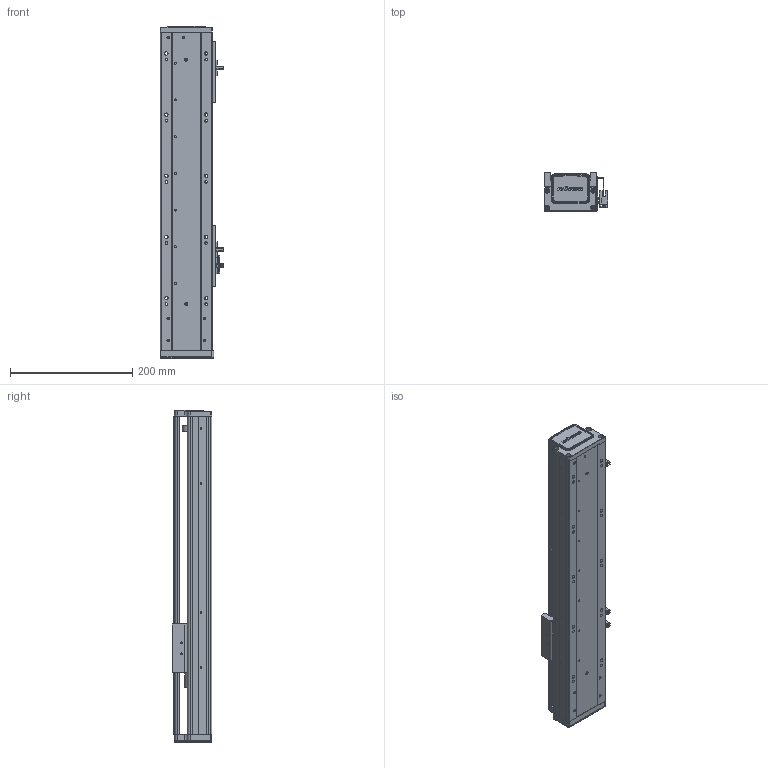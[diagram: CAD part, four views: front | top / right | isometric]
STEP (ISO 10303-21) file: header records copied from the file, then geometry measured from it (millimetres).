
FILE_DESCRIPTION (( 'STEP AP203' ), '1' );
FILE_NAME ('RY80-L1620-300-MK.SLDASM_300.step', '2021-02-20T02:32:50', ( '' ), ( '' ), 'SwSTEP 2.0', 'SolidWorks 2012', '' );
FILE_SCHEMA (( 'CONFIG_CONTROL_DESIGN' ));
Products named in the file (12): RY80-L1620-300-MK.SLDASM_300; RY80前盖板(100W电机 PCD46 M4); 滅袉蝶18-24; RY80俋离覜茼え; RY80綴裔啣; 覜茼ん672; RY80前盖板(200W电机)M4; 滅袉蝶18-10; 672嫖萇羲壽假蚾釱; RY80-300-MK倰第菁釱; RY80-300-MK倰第奻裔啣; RY80臏賑輸
Assembly tree (14 placements, depth 2):
  RY80-L1620-300-MK.SLDASM_300
    RY80-300-MK倰第菁釱
    RY80臏賑輸
    RY80-300-MK倰第奻裔啣
    RY80前盖板(200W电机)M4
    滅袉蝶18-10
    672嫖萇羲壽假蚾釱  x2
    覜茼ん672  x3
    RY80俋离覜茼え
    滅袉蝶18-24
    RY80綴裔啣
    RY80前盖板(100W电机 PCD46 M4)
Bounding box: 103.7 x 65 x 543 mm (x, y, z)
Volume: 924977.1 mm3; surface area: 403576.1 mm2
Topology: 14 solids, 14 shells, 1561 faces, 4341 edges, 2825 vertices
Faces by surface type: plane 894, cylinder 540, cone 91, bspline 36
Entity records: 48277 total; most frequent: CARTESIAN_POINT 12470, ORIENTED_EDGE 7442, DIRECTION 6765, EDGE_CURVE 3721, VERTEX_POINT 2441, LINE 2329, VECTOR 2329, AXIS2_PLACEMENT_3D 2218
